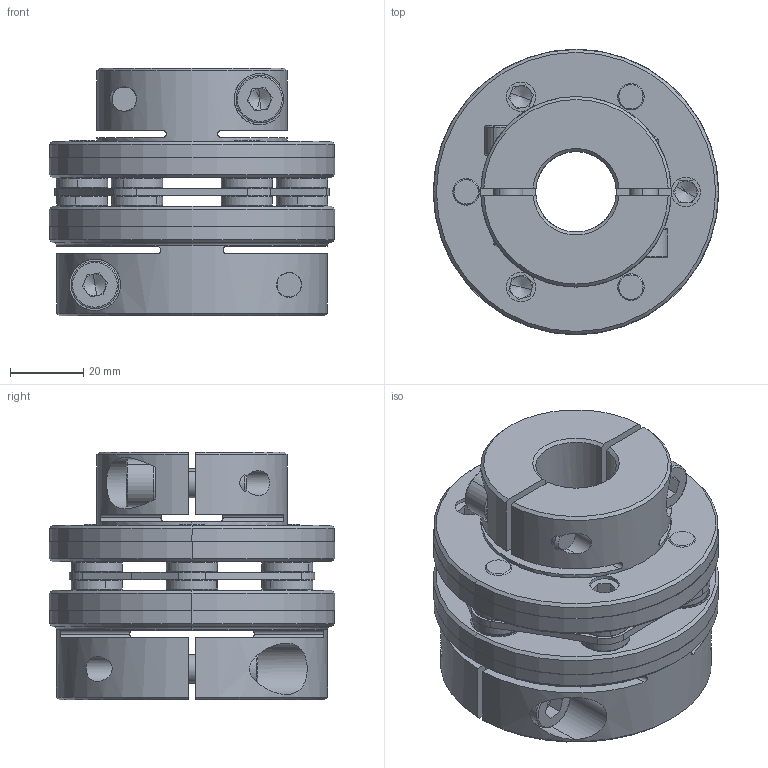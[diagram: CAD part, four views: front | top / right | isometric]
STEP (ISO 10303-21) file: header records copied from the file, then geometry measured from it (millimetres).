
FILE_DESCRIPTION (( 'STEP AP203' ), '1' );
FILE_NAME ('SCDS-78C-TYPE3(22X38).STEP', '2021-12-27T01:35:51', ( '' ), ( '' ), 'SwSTEP 2.0', 'SolidWorks 2021', '' );
FILE_SCHEMA (( 'CONFIG_CONTROL_DESIGN' ));
Length unit declared in the file: millimetre
Products named in the file (1): SCDS-78C-TYPE3(22X38)
Bounding box: 78 x 78 x 67.7 mm (x, y, z)
Volume: 165453.1 mm3; surface area: 60726.1 mm2
Topology: 1 solids, 13 shells, 665 faces, 1597 edges, 975 vertices
Faces by surface type: cylinder 237, plane 212, cone 118, torus 98
Entity records: 20414 total; most frequent: CARTESIAN_POINT 4346, DIRECTION 3663, ORIENTED_EDGE 3154, EDGE_CURVE 1577, AXIS2_PLACEMENT_3D 1512, VERTEX_POINT 975, CIRCLE 846, EDGE_LOOP 768
